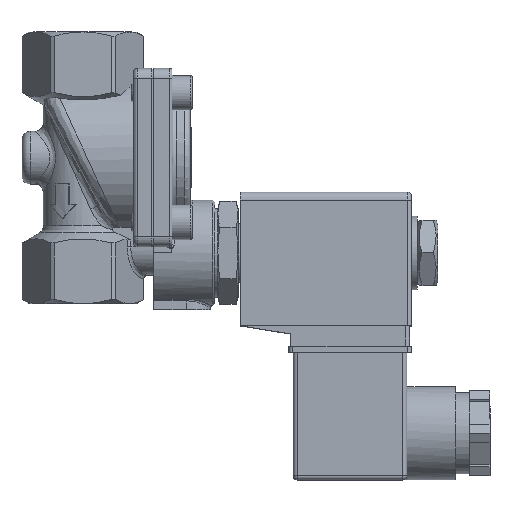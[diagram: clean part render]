
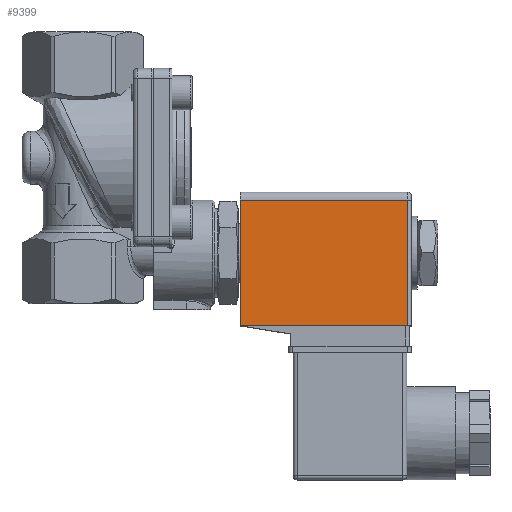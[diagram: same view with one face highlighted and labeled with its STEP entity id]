
A CAD part, top view. The second image highlights one B-rep face of the part: STEP entity #9399.
In plain terms, the highlighted planar face has unit normal (0, 0, 1) as drawn and (0, -1, 0) by its records, which use the part's own axes.
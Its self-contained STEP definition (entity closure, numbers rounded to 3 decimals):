
#9082=CARTESIAN_POINT('',(18.,-14.5,41.3));
#9083=VERTEX_POINT('',#9082);
#9101=CARTESIAN_POINT('',(-13.,-14.5,41.3));
#9102=VERTEX_POINT('',#9101);
#9110=CARTESIAN_POINT('',(-13.,-14.5,41.3));
#9111=DIRECTION('',(1.0,0.0,0.0));
#9112=VECTOR('',#9111,31.0);
#9113=LINE('',#9110,#9112);
#9114=EDGE_CURVE('',#9102,#9083,#9113,.T.);
#9369=CARTESIAN_POINT('',(18.,-14.5,0.0));
#9370=DIRECTION('',(0.0,-1.0,0.0));
#9371=DIRECTION('',(0.0,0.0,-1.0));
#9372=AXIS2_PLACEMENT_3D('',#9369,#9370,#9371);
#9373=PLANE('',#9372);
#9374=ORIENTED_EDGE('',*,*,#9114,.F.);
#9375=CARTESIAN_POINT('',(-13.,-14.5,0.0));
#9376=VERTEX_POINT('',#9375);
#9377=CARTESIAN_POINT('',(-13.,-14.5,0.0));
#9378=DIRECTION('',(0.0,0.0,1.0));
#9379=VECTOR('',#9378,41.3);
#9380=LINE('',#9377,#9379);
#9381=EDGE_CURVE('',#9376,#9102,#9380,.T.);
#9382=ORIENTED_EDGE('',*,*,#9381,.F.);
#9383=CARTESIAN_POINT('',(18.,-14.5,0.0));
#9384=VERTEX_POINT('',#9383);
#9385=CARTESIAN_POINT('',(-13.,-14.5,0.0));
#9386=DIRECTION('',(1.0,0.0,0.0));
#9387=VECTOR('',#9386,31.0);
#9388=LINE('',#9385,#9387);
#9389=EDGE_CURVE('',#9376,#9384,#9388,.T.);
#9390=ORIENTED_EDGE('',*,*,#9389,.T.);
#9391=CARTESIAN_POINT('',(18.,-14.5,0.0));
#9392=DIRECTION('',(0.0,0.0,1.0));
#9393=VECTOR('',#9392,41.3);
#9394=LINE('',#9391,#9393);
#9395=EDGE_CURVE('',#9384,#9083,#9394,.T.);
#9396=ORIENTED_EDGE('',*,*,#9395,.T.);
#9397=EDGE_LOOP('',(#9374,#9382,#9390,#9396));
#9398=FACE_OUTER_BOUND('',#9397,.T.);
#9399=ADVANCED_FACE('',(#9398),#9373,.T.);
